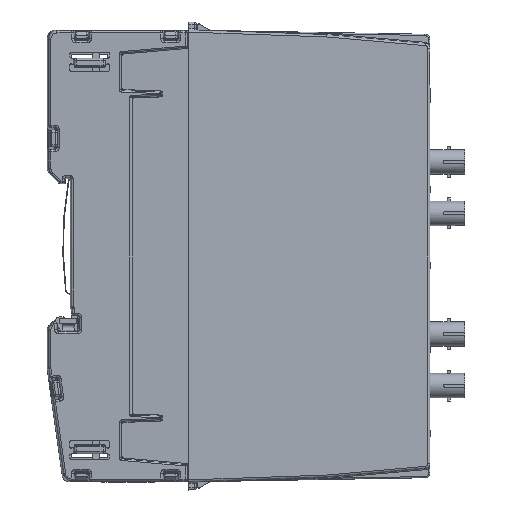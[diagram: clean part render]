
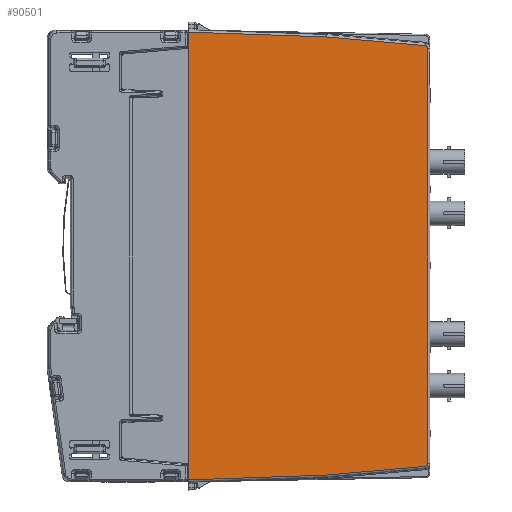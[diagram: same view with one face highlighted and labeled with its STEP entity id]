
A CAD part, left-side view. The second image highlights one B-rep face of the part: STEP entity #90501.
In plain terms, the highlighted planar face has unit normal (-1, -0.018, 0).
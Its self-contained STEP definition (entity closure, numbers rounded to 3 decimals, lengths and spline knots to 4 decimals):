
#9270=FACE_OUTER_BOUND('',#14419,.T.);
#14419=EDGE_LOOP('',(#70539,#70540,#70541,#70542,#70543,#70544,#70545,#70546,
#70547,#70548));
#21437=LINE('',#155280,#29567);
#21438=LINE('',#155284,#29568);
#21439=LINE('',#155286,#29569);
#21440=LINE('',#155288,#29570);
#21441=LINE('',#155290,#29571);
#21442=LINE('',#155292,#29572);
#21443=LINE('',#155296,#29573);
#21444=LINE('',#155299,#29574);
#29567=VECTOR('',#116067,39.3701);
#29568=VECTOR('',#116072,39.3701);
#29569=VECTOR('',#116073,39.3701);
#29570=VECTOR('',#116074,39.3701);
#29571=VECTOR('',#116075,39.3701);
#29572=VECTOR('',#116076,39.3701);
#29573=VECTOR('',#116079,39.3701);
#29574=VECTOR('',#116082,39.3701);
#33604=ELLIPSE('',#97566,0.0315,0.0315);
#33605=ELLIPSE('',#97567,0.0315,0.0315);
#39157=VERTEX_POINT('',#155277);
#39158=VERTEX_POINT('',#155279);
#39159=VERTEX_POINT('',#155283);
#39160=VERTEX_POINT('',#155285);
#39161=VERTEX_POINT('',#155287);
#39162=VERTEX_POINT('',#155289);
#39163=VERTEX_POINT('',#155291);
#39164=VERTEX_POINT('',#155293);
#39165=VERTEX_POINT('',#155295);
#39166=VERTEX_POINT('',#155297);
#50185=EDGE_CURVE('',#39158,#39157,#21437,.T.);
#50187=EDGE_CURVE('',#39157,#39159,#21438,.T.);
#50188=EDGE_CURVE('',#39160,#39159,#21439,.T.);
#50189=EDGE_CURVE('',#39160,#39161,#21440,.T.);
#50190=EDGE_CURVE('',#39161,#39162,#21441,.T.);
#50191=EDGE_CURVE('',#39162,#39163,#21442,.T.);
#50192=EDGE_CURVE('',#39163,#39164,#33604,.T.);
#50193=EDGE_CURVE('',#39164,#39165,#21443,.T.);
#50194=EDGE_CURVE('',#39165,#39166,#33605,.T.);
#50195=EDGE_CURVE('',#39166,#39158,#21444,.T.);
#70539=ORIENTED_EDGE('',*,*,#50185,.T.);
#70540=ORIENTED_EDGE('',*,*,#50187,.T.);
#70541=ORIENTED_EDGE('',*,*,#50188,.F.);
#70542=ORIENTED_EDGE('',*,*,#50189,.T.);
#70543=ORIENTED_EDGE('',*,*,#50190,.T.);
#70544=ORIENTED_EDGE('',*,*,#50191,.T.);
#70545=ORIENTED_EDGE('',*,*,#50192,.T.);
#70546=ORIENTED_EDGE('',*,*,#50193,.T.);
#70547=ORIENTED_EDGE('',*,*,#50194,.T.);
#70548=ORIENTED_EDGE('',*,*,#50195,.T.);
#81709=PLANE('',#97565);
#90501=ADVANCED_FACE('',(#9270),#81709,.T.);
#97565=AXIS2_PLACEMENT_3D('',#155282,#116070,#116071);
#97566=AXIS2_PLACEMENT_3D('',#155294,#116077,#116078);
#97567=AXIS2_PLACEMENT_3D('',#155298,#116080,#116081);
#116067=DIRECTION('',(-0.017,0.999,0.035));
#116070=DIRECTION('center_axis',(-1.,-0.017,
0.));
#116071=DIRECTION('ref_axis',(-0.017,1.,0.));
#116072=DIRECTION('',(0.,0.,-1.));
#116073=DIRECTION('',(0.,0.,1.));
#116074=DIRECTION('',(0.,0.,-1.));
#116075=DIRECTION('',(0.017,-0.999,0.035));
#116076=DIRECTION('',(0.017,-0.996,0.087));
#116077=DIRECTION('center_axis',(-1.,-0.017,
0.));
#116078=DIRECTION('ref_axis',(0.017,-1.,0.));
#116079=DIRECTION('',(0.,0.,1.));
#116080=DIRECTION('center_axis',(-1.,-0.017,
0.));
#116081=DIRECTION('ref_axis',(0.017,-1.,0.));
#116082=DIRECTION('',(-0.017,0.996,0.087));
#155277=CARTESIAN_POINT('',(-0.0227,-0.8686,0.1083));
#155279=CARTESIAN_POINT('',(0.0007,-2.2063,0.0616));
#155280=CARTESIAN_POINT('',(-0.0282,-0.5512,0.1194));
#155282=CARTESIAN_POINT('Origin',(-0.0295,-0.4749,
-2.0669));
#155283=CARTESIAN_POINT('',(-0.0227,-0.8686,-0.0312));
#155284=CARTESIAN_POINT('',(-0.0227,-0.8686,0.128));
#155285=CARTESIAN_POINT('',(-0.0227,-0.8686,-4.1027));
#155286=CARTESIAN_POINT('',(-0.0227,-0.8686,-7.5932));
#155287=CARTESIAN_POINT('',(-0.0227,-0.8686,-4.2421));
#155288=CARTESIAN_POINT('',(-0.0227,-0.8686,0.128));
#155289=CARTESIAN_POINT('',(0.0007,-2.2063,-4.1954));
#155290=CARTESIAN_POINT('',(-0.0282,-0.5512,-4.2532));
#155291=CARTESIAN_POINT('',(0.0174,-3.163,-4.1117));
#155292=CARTESIAN_POINT('',(-0.0261,-0.6728,-4.3296));
#155293=CARTESIAN_POINT('',(0.0179,-3.1918,-4.0803));
#155294=CARTESIAN_POINT('Origin',(0.0173,-3.1603,
-4.0803));
#155295=CARTESIAN_POINT('',(0.0179,-3.1918,-0.0535));
#155296=CARTESIAN_POINT('',(0.0179,-3.1918,-0.0535));
#155297=CARTESIAN_POINT('',(0.0174,-3.163,-0.0221));
#155298=CARTESIAN_POINT('Origin',(0.0173,-3.1603,
-0.0535));
#155299=CARTESIAN_POINT('',(-0.0261,-0.6728,0.1957));
